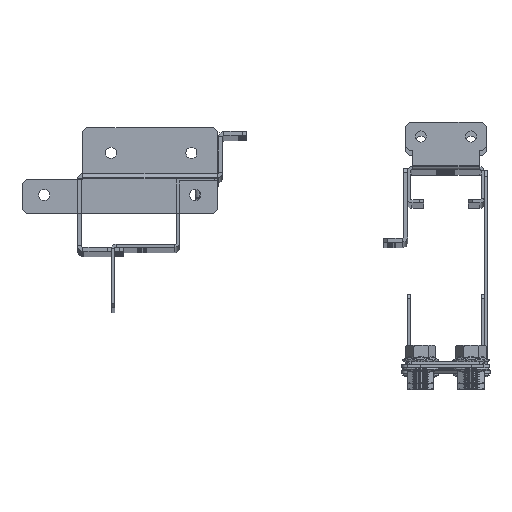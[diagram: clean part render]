
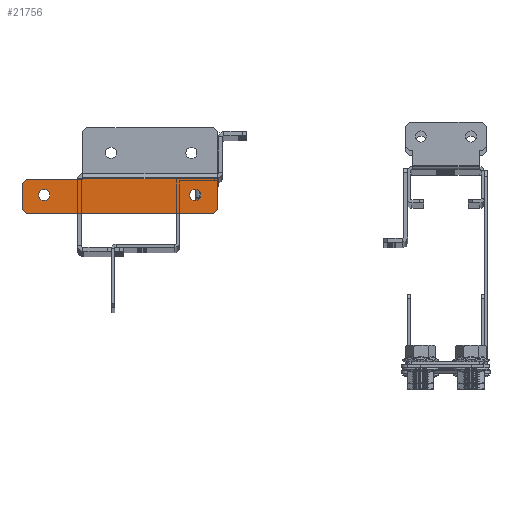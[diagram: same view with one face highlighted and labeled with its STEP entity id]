
A CAD part, top view. The second image highlights one B-rep face of the part: STEP entity #21756.
In plain terms, the highlighted planar face has unit normal (0, 0, 1).
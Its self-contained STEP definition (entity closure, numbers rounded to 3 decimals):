
#18971=CARTESIAN_POINT(' ',(-81.4,-21.6,772.7));
#18972=VERTEX_POINT(' ',#18971);
#18986=CARTESIAN_POINT(' ',(-81.4,-21.6,772.7));
#18991=DIRECTION(' ',(1.,0.,0.));
#18996=VECTOR(' ',#18991,1.);
#19001=LINE('',#18986,#18996);
#19006=CARTESIAN_POINT(' ',(-14.6,-21.6,772.7));
#19007=VERTEX_POINT(' ',#19006);
#19011=EDGE_CURVE(' ',#18972,#19007,#19001,.T.);
#21226=CARTESIAN_POINT(' ',(-81.4,-22.,772.7));
#21227=VERTEX_POINT(' ',#21226);
#21241=CARTESIAN_POINT(' ',(-81.4,-21.6,772.7));
#21246=DIRECTION(' ',(0.,-1.,0.));
#21251=VECTOR(' ',#21246,1.);
#21256=LINE('',#21241,#21251);
#21261=EDGE_CURVE(' ',#18972,#21227,#21256,.T.);
#21291=DIRECTION(' ',(0.,0.,1.));
#21296=CARTESIAN_POINT(' ',(-111.6,-39.,772.7));
#21301=DIRECTION(' ',(1.,0.,0.));
#21306=AXIS2_PLACEMENT_3D(' ',#21296,#21291,#21301);
#21311=PLANE('NONE',#21306);
#21316=CARTESIAN_POINT(' ',(-81.4,-22.,772.7));
#21321=DIRECTION(' ',(-1.,0.,0.));
#21326=VECTOR(' ',#21321,1.);
#21331=LINE('',#21316,#21326);
#21336=CARTESIAN_POINT(' ',(-109.6,-22.,772.7));
#21337=VERTEX_POINT(' ',#21336);
#21341=EDGE_CURVE(' ',#21227,#21337,#21331,.T.);
#21346=ORIENTED_EDGE(' ',*,*,#21341,.T.);
#21351=CARTESIAN_POINT(' ',(-109.6,-22.,772.7));
#21356=DIRECTION(' ',(-0.707,-0.707,0.));
#21361=VECTOR(' ',#21356,1.);
#21366=LINE('',#21351,#21361);
#21371=CARTESIAN_POINT(' ',(-111.6,-24.,772.7));
#21372=VERTEX_POINT(' ',#21371);
#21376=EDGE_CURVE(' ',#21337,#21372,#21366,.T.);
#21381=ORIENTED_EDGE(' ',*,*,#21376,.T.);
#21386=CARTESIAN_POINT(' ',(-111.6,-24.,772.7));
#21391=DIRECTION(' ',(0.,-1.,0.));
#21396=VECTOR(' ',#21391,1.);
#21401=LINE('',#21386,#21396);
#21406=CARTESIAN_POINT(' ',(-111.6,-37.,772.7));
#21407=VERTEX_POINT(' ',#21406);
#21411=EDGE_CURVE(' ',#21372,#21407,#21401,.T.);
#21416=ORIENTED_EDGE(' ',*,*,#21411,.T.);
#21421=CARTESIAN_POINT(' ',(-111.6,-37.,772.7));
#21426=DIRECTION(' ',(0.707,-0.707,0.));
#21431=VECTOR(' ',#21426,1.);
#21436=LINE('',#21421,#21431);
#21441=CARTESIAN_POINT(' ',(-109.6,-39.,772.7));
#21442=VERTEX_POINT(' ',#21441);
#21446=EDGE_CURVE(' ',#21407,#21442,#21436,.T.);
#21451=ORIENTED_EDGE(' ',*,*,#21446,.T.);
#21456=CARTESIAN_POINT(' ',(-109.6,-39.,772.7));
#21461=DIRECTION(' ',(1.,0.,0.));
#21466=VECTOR(' ',#21461,1.);
#21471=LINE('',#21456,#21466);
#21476=CARTESIAN_POINT(' ',(-16.6,-39.,772.7));
#21477=VERTEX_POINT(' ',#21476);
#21481=EDGE_CURVE(' ',#21442,#21477,#21471,.T.);
#21486=ORIENTED_EDGE(' ',*,*,#21481,.T.);
#21491=CARTESIAN_POINT(' ',(-16.6,-39.,772.7));
#21496=DIRECTION(' ',(0.707,0.707,0.));
#21501=VECTOR(' ',#21496,1.);
#21506=LINE('',#21491,#21501);
#21511=CARTESIAN_POINT(' ',(-14.6,-37.,772.7));
#21512=VERTEX_POINT(' ',#21511);
#21516=EDGE_CURVE(' ',#21477,#21512,#21506,.T.);
#21521=ORIENTED_EDGE(' ',*,*,#21516,.T.);
#21526=CARTESIAN_POINT(' ',(-14.6,-37.,772.7));
#21531=DIRECTION(' ',(0.,1.,0.));
#21536=VECTOR(' ',#21531,1.);
#21541=LINE('',#21526,#21536);
#21546=EDGE_CURVE(' ',#21512,#19007,#21541,.T.);
#21551=ORIENTED_EDGE(' ',*,*,#21546,.T.);
#21556=ORIENTED_EDGE(' ',*,*,#19011,.F.);
#21561=ORIENTED_EDGE(' ',*,*,#21261,.T.);
#21566=EDGE_LOOP(' ',(#21346,#21381,#21416,#21451,#21486,#21521,#21551,#21556,#21561));
#21571=FACE_OUTER_BOUND(' ',#21566,.T.);
#21576=CARTESIAN_POINT(' ',(-25.6,-29.5,772.7));
#21581=DIRECTION(' ',(0.,0.,1.));
#21586=DIRECTION(' ',(1.,0.,0.));
#21591=AXIS2_PLACEMENT_3D(' ',#21576,#21581,#21586);
#21596=CIRCLE('',#21591,2.75);
#21601=CARTESIAN_POINT(' ',(-22.85,-29.5,772.7));
#21602=VERTEX_POINT(' ',#21601);
#21606=CARTESIAN_POINT(' ',(-28.35,-29.5,772.7));
#21607=VERTEX_POINT(' ',#21606);
#21611=EDGE_CURVE(' ',#21602,#21607,#21596,.T.);
#21616=ORIENTED_EDGE(' ',*,*,#21611,.F.);
#21621=CARTESIAN_POINT(' ',(-25.6,-29.5,772.7));
#21626=DIRECTION(' ',(0.,-0.,1.));
#21631=DIRECTION(' ',(-1.,0.,0.));
#21636=AXIS2_PLACEMENT_3D(' ',#21621,#21626,#21631);
#21641=CIRCLE('',#21636,2.75);
#21646=EDGE_CURVE(' ',#21607,#21602,#21641,.T.);
#21651=ORIENTED_EDGE(' ',*,*,#21646,.F.);
#21656=EDGE_LOOP(' ',(#21616,#21651));
#21661=FACE_BOUND(' ',#21656,.T.);
#21666=CARTESIAN_POINT(' ',(-100.6,-29.5,772.7));
#21671=DIRECTION(' ',(0.,0.,1.));
#21676=DIRECTION(' ',(1.,0.,0.));
#21681=AXIS2_PLACEMENT_3D(' ',#21666,#21671,#21676);
#21686=CIRCLE('',#21681,2.75);
#21691=CARTESIAN_POINT(' ',(-97.85,-29.5,772.7));
#21692=VERTEX_POINT(' ',#21691);
#21696=CARTESIAN_POINT(' ',(-103.35,-29.5,772.7));
#21697=VERTEX_POINT(' ',#21696);
#21701=EDGE_CURVE(' ',#21692,#21697,#21686,.T.);
#21706=ORIENTED_EDGE(' ',*,*,#21701,.F.);
#21711=CARTESIAN_POINT(' ',(-100.6,-29.5,772.7));
#21716=DIRECTION(' ',(0.,0.,1.));
#21721=DIRECTION(' ',(-1.,0.,0.));
#21726=AXIS2_PLACEMENT_3D(' ',#21711,#21716,#21721);
#21731=CIRCLE('',#21726,2.75);
#21736=EDGE_CURVE(' ',#21697,#21692,#21731,.T.);
#21741=ORIENTED_EDGE(' ',*,*,#21736,.F.);
#21746=EDGE_LOOP(' ',(#21706,#21741));
#21751=FACE_BOUND(' ',#21746,.T.);
#21756=ADVANCED_FACE('NONE',(#21571,#21661,#21751),#21311,.T.);
